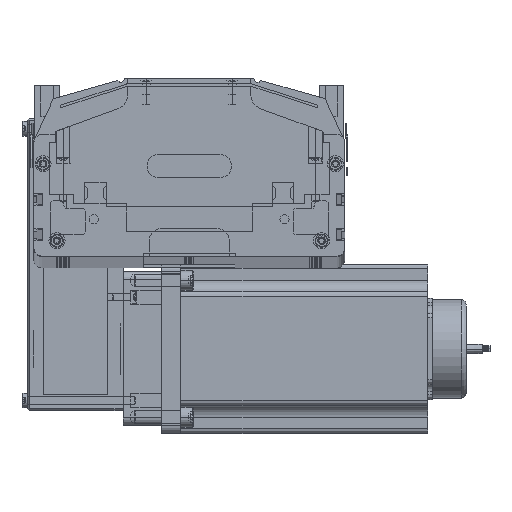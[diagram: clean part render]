
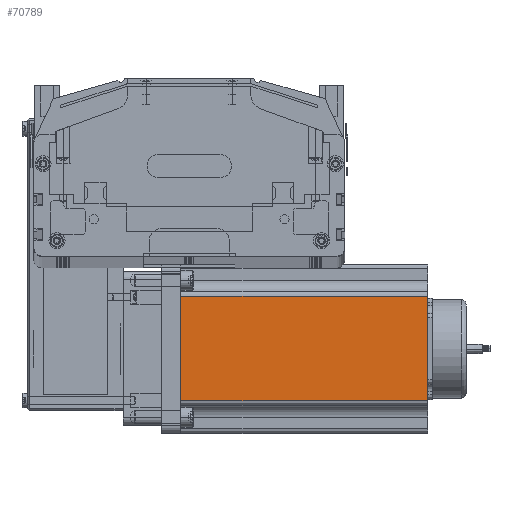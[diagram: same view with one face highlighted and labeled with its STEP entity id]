
A CAD part, top view. The second image highlights one B-rep face of the part: STEP entity #70789.
In plain terms, the highlighted planar face has unit normal (0, 0, 1) as drawn and (0, -1, 0) by its records, which use the part's own axes.
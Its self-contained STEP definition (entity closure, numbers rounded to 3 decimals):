
#70720 = ORIENTED_EDGE ( 'NONE', *, *, #70721, .T. ) ;
#70721 = EDGE_CURVE ( 'NONE', #70879, #71799, #79698, .T. ) ;
#70734 = EDGE_CURVE ( 'NONE', #71101, #70879, #79702, .T. ) ;
#70789 = ADVANCED_FACE ( 'NONE', ( #79807 ), #79686, .F. ) ;
#70872 = EDGE_CURVE ( 'NONE', #71027, #71101, #79794, .T. ) ;
#70879 = VERTEX_POINT ( 'NONE', #79779 ) ;
#71027 = VERTEX_POINT ( 'NONE', #79683 ) ;
#71039 = ORIENTED_EDGE ( 'NONE', *, *, #70872, .T. ) ;
#71101 = VERTEX_POINT ( 'NONE', #79840 ) ;
#71104 = EDGE_LOOP ( 'NONE', ( #71487, #70720, #71794, #71039 ) ) ;
#71487 = ORIENTED_EDGE ( 'NONE', *, *, #70734, .T. ) ;
#71794 = ORIENTED_EDGE ( 'NONE', *, *, #71795, .F. ) ;
#71795 = EDGE_CURVE ( 'NONE', #71027, #71799, #80065, .T. ) ;
#71799 = VERTEX_POINT ( 'NONE', #80052 ) ;
#79683 = CARTESIAN_POINT ( 'NONE',  ( 21.048, 0., 160.5 ) ) ;
#79684 = DIRECTION ( 'NONE',  ( 0., 0., 1. ) ) ;
#79685 = VECTOR ( 'NONE', #79684, 1000. ) ;
#79686 = PLANE ( 'NONE',  #79799 ) ;
#79696 = CARTESIAN_POINT ( 'NONE',  ( 88.952, 0., 160.5 ) ) ;
#79698 = LINE ( 'NONE', #79696, #79685 ) ;
#79702 = LINE ( 'NONE', #79806, #79803 ) ;
#79741 = DIRECTION ( 'NONE',  ( 0., 1., 0. ) ) ;
#79779 = CARTESIAN_POINT ( 'NONE',  ( 88.952, 0., 0. ) ) ;
#79781 = DIRECTION ( 'NONE',  ( 0., 0., -1. ) ) ;
#79782 = VECTOR ( 'NONE', #79781, 1000. ) ;
#79784 = CARTESIAN_POINT ( 'NONE',  ( 21.048, 0., 160.5 ) ) ;
#79788 = DIRECTION ( 'NONE',  ( 0., 0., 1. ) ) ;
#79794 = LINE ( 'NONE', #79784, #79782 ) ;
#79799 = AXIS2_PLACEMENT_3D ( 'NONE', #79809, #79741, #79788 ) ;
#79801 = DIRECTION ( 'NONE',  ( 1., 0., 0. ) ) ;
#79803 = VECTOR ( 'NONE', #79801, 1000. ) ;
#79806 = CARTESIAN_POINT ( 'NONE',  ( 0., 0., 0. ) ) ;
#79807 = FACE_OUTER_BOUND ( 'NONE', #71104, .T. ) ;
#79809 = CARTESIAN_POINT ( 'NONE',  ( 0., 0., 160.5 ) ) ;
#79840 = CARTESIAN_POINT ( 'NONE',  ( 21.048, 0., 0. ) ) ;
#80049 = DIRECTION ( 'NONE',  ( 1., 0., 0. ) ) ;
#80050 = VECTOR ( 'NONE', #80049, 1000. ) ;
#80052 = CARTESIAN_POINT ( 'NONE',  ( 88.952, 0., 160.5 ) ) ;
#80064 = CARTESIAN_POINT ( 'NONE',  ( 0., 0., 160.5 ) ) ;
#80065 = LINE ( 'NONE', #80064, #80050 ) ;
